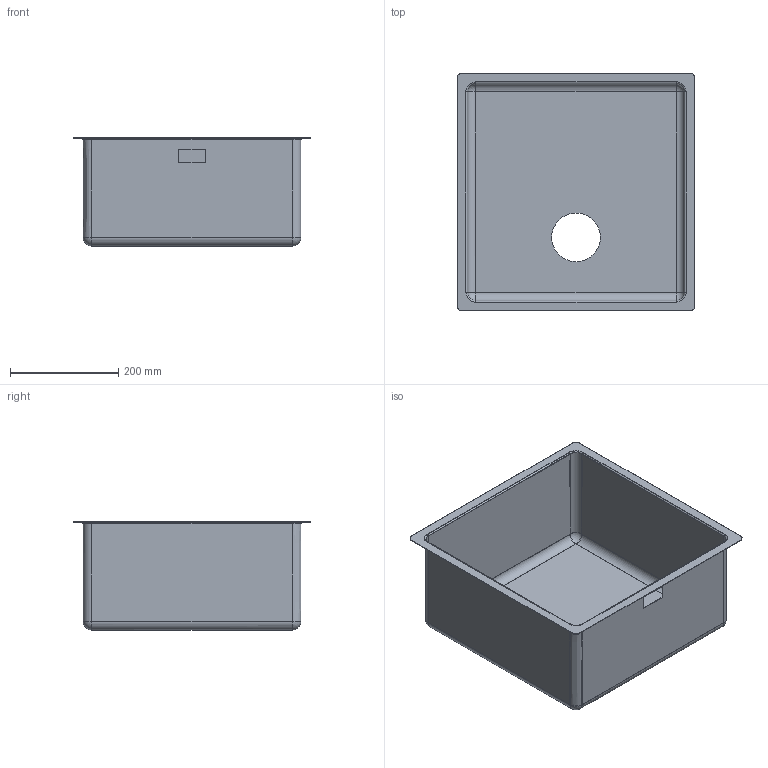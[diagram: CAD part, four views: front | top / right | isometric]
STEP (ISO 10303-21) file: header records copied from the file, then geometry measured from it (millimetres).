
FILE_DESCRIPTION(('CATIA V5 STEP Exchange'),'2;1');
FILE_NAME('M:\DISEGNI\LAVELLI\Mira\Assiemi\VSTR40DKX\VSTR40DKX.stp','2018-12-19T13:14:18+00:00',('none'),('none'),'CATIA Version 5-6 Release 2014','CATIA V5 STEP AP203','none');
FILE_SCHEMA(('CONFIG_CONTROL_DESIGN'));
Length unit declared in the file: millimetre
Products named in the file (1): 2427534
Bounding box: 440 x 440 x 200 mm (x, y, z)
Volume: 488300.5 mm3; surface area: 978778.7 mm2
Topology: 1 solids, 1 shells, 66 faces, 146 edges, 84 vertices
Faces by surface type: cylinder 22, plane 20, bspline 16, sphere 8
Entity records: 3267 total; most frequent: CARTESIAN_POINT 1937, ORIENTED_EDGE 292, DIRECTION 194, EDGE_CURVE 146, VERTEX_POINT 84, AXIS2_PLACEMENT_3D 74, VECTOR 72, EDGE_LOOP 72
